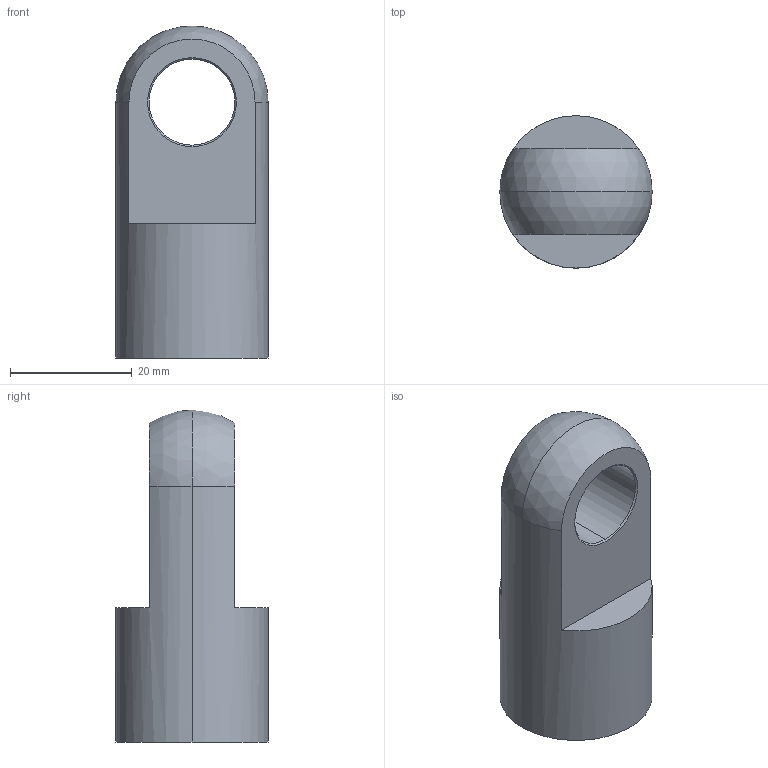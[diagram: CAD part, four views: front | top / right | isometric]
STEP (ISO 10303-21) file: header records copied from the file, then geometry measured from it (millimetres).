
FILE_DESCRIPTION (( 'STEP AP214' ), '1' );
FILE_NAME ('18.09ADM14x1.5G14.1.STEP', '2017-10-23T13:50:52', ( '' ), ( '' ), 'SwSTEP 2.0', 'SolidWorks 2016', '' );
FILE_SCHEMA (( 'AUTOMOTIVE_DESIGN' ));
Length unit declared in the file: millimetre
Products named in the file (1): 18.09ADM14x1.5G14.1
Bounding box: 25 x 25 x 54.5 mm (x, y, z)
Volume: 15075.3 mm3; surface area: 5974.6 mm2
Topology: 1 solids, 1 shells, 21 faces, 48 edges, 28 vertices
Faces by surface type: cone 8, cylinder 6, plane 5, sphere 2
Entity records: 620 total; most frequent: DIRECTION 116, CARTESIAN_POINT 96, ORIENTED_EDGE 92, AXIS2_PLACEMENT_3D 48, EDGE_CURVE 46, VERTEX_POINT 28, CIRCLE 26, EDGE_LOOP 24
